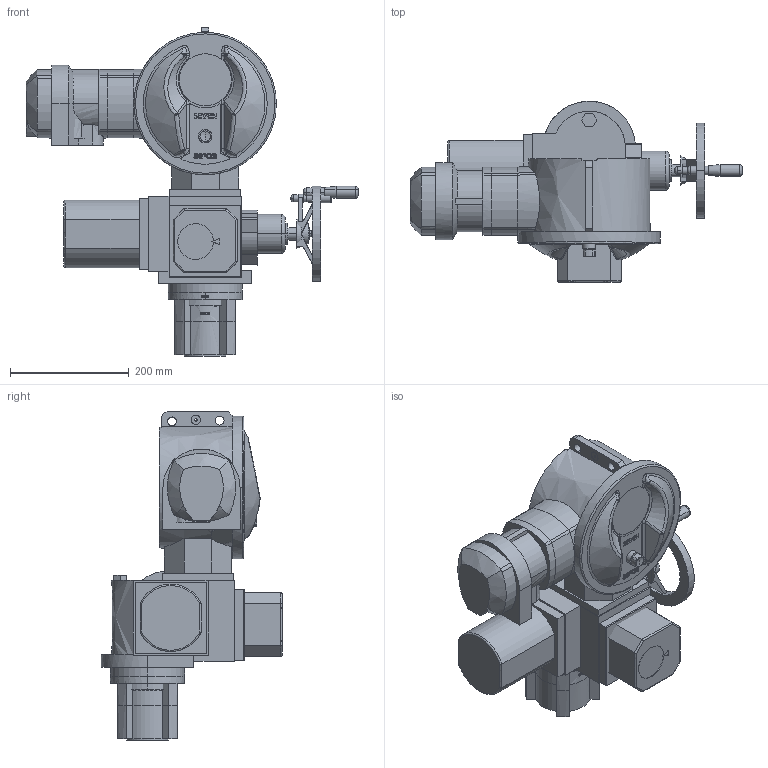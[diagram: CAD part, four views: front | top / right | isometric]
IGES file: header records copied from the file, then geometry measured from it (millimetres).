
Start section: Elysium IGES Interface
Global section: file name: H:\cad\3D-fuer-Kunden\2017_09\2SA7.1_2SA7.2.igs; native system: Creo Elements/Direct Modeling 18.1B  29-Sep-2012; preprocessor: Creo Element/Direct IGES_3D V2.2; author: Unknown; organization: Unknown; date: 20170922.144515; units: millimetre
Bounding box: 559.5 x 306 x 554 mm (x, y, z)
Volume: 18546707.9 mm3; surface area: 1000335.2 mm2
Topology: 12 solids, 12 shells, 1744 faces, 4585 edges, 2976 vertices
Faces by surface type: bspline 1744
